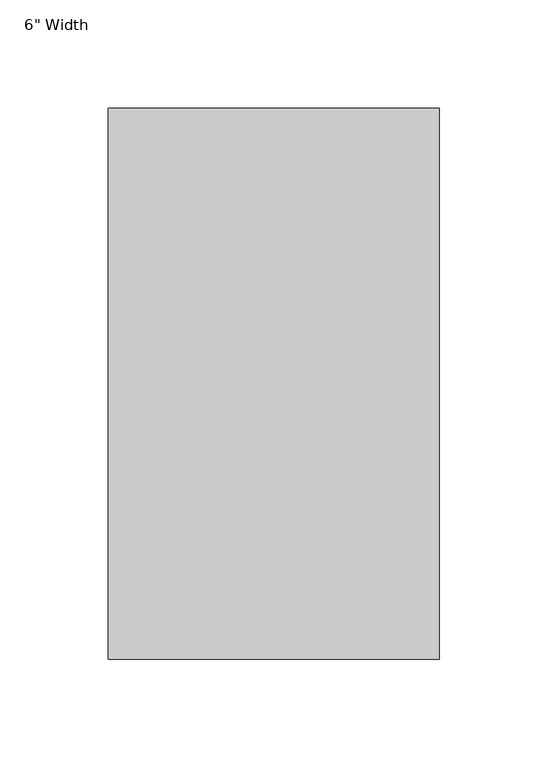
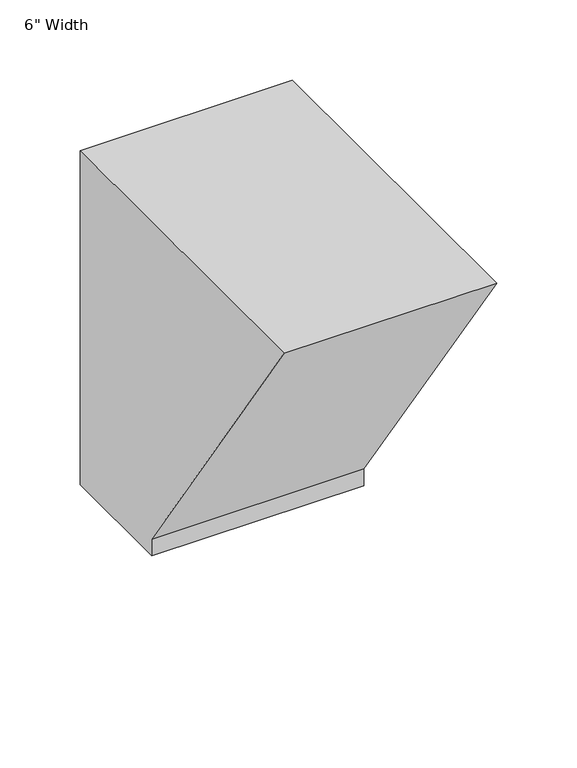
"""IFC4 building model written with IfcOpenShell, lengths in millimetres: proxy geometry."""

from ifc_helpers import new_model, si_unit, frame, origin, place, context, project, spatial, polyline, outline, extrude, source, transform, mapped, element, save


def proxy_e8817ffa(model_context):
    return source(origin(), model_context, "Body", "SweptSolid", [
        extrude(outline(polyline([(-209.55, 254.0), (44.45, 254.0), (44.45, 0.0), (-44.45, 0.0), (-44.45, 12.7), (-209.55, 254.0)])), frame((-76.2, 0.0, 0.0), z_axis=(1.0, 0.0, 0.0), x_axis=(0.0, 1.0, 0.0)), (0.0, 0.0, 1.0), 152.4),
    ])


if __name__ == "__main__":
    model = new_model("IFC4")
    model_context = context("Model", 3, world=origin())
    ifc_project = project(units=[si_unit("LENGTHUNIT", "METRE", prefix="MILLI")], contexts=[model_context])
    site = spatial("IfcSite", under=ifc_project)
    building = spatial("IfcBuilding", under=site)
    placement = place(None, origin())
    proxy_shape = proxy_e8817ffa(model_context)
    element("IfcBuildingElementProxy", 1, Name="Tee-Wallduct-Wiremold-Sweep : 6\" Width", ObjectType="Tee-Wallduct-Wiremold-Sweep : 6\" Width", at=placement, inside=building, context=model_context, shape_type="MappedRepresentation", body=[
        mapped(proxy_shape, transform((0.0, 0.0, 0.0), x_axis=(1.0, 0.0, 0.0), y_axis=(0.0, 1.0, 0.0), z_axis=(0.0, 0.0, 1.0))),
    ])
    save(model, "model.ifc")
